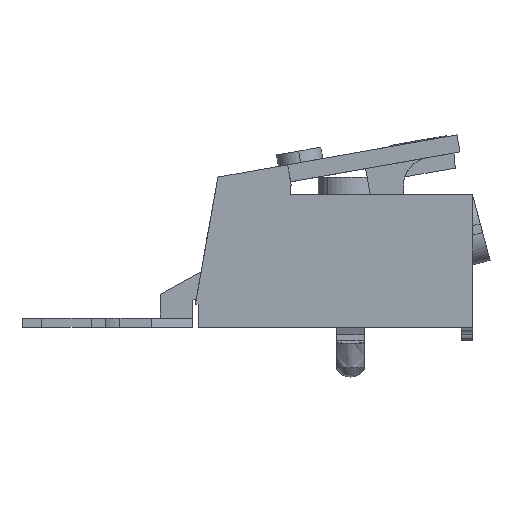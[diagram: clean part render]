
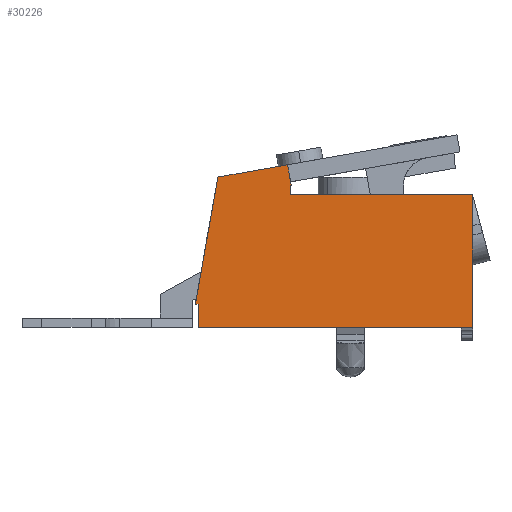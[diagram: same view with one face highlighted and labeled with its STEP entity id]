
A CAD part, left-side view. The second image highlights one B-rep face of the part: STEP entity #30226.
In plain terms, the highlighted planar face has unit normal (-1, 0, 0).
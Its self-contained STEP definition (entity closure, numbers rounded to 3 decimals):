
#14336=CARTESIAN_POINT(' ',(-14.9,0.,11.5));
#14337=VERTEX_POINT(' ',#14336);
#14351=CARTESIAN_POINT(' ',(-14.9,0.,0.));
#14356=DIRECTION(' ',(0.,0.,1.));
#14361=VECTOR(' ',#14356,1.);
#14366=LINE('',#14351,#14361);
#14371=CARTESIAN_POINT(' ',(-14.9,0.,0.));
#14372=VERTEX_POINT(' ',#14371);
#14376=EDGE_CURVE(' ',#14372,#14337,#14366,.T.);
#16231=CARTESIAN_POINT(' ',(-14.9,23.8,0.));
#16236=DIRECTION(' ',(0.,-1.,0.));
#16241=VECTOR(' ',#16236,1.);
#16246=LINE('',#16231,#16241);
#16251=CARTESIAN_POINT(' ',(-14.9,23.8,0.));
#16252=VERTEX_POINT(' ',#16251);
#16256=EDGE_CURVE(' ',#16252,#14372,#16246,.T.);
#16446=CARTESIAN_POINT(' ',(-14.9,23.8,2.));
#16451=DIRECTION(' ',(0.,0.,-1.));
#16456=VECTOR(' ',#16451,1.);
#16461=LINE('',#16446,#16456);
#16466=CARTESIAN_POINT(' ',(-14.9,23.8,2.));
#16467=VERTEX_POINT(' ',#16466);
#16471=EDGE_CURVE(' ',#16467,#16252,#16461,.T.);
#16566=CARTESIAN_POINT(' ',(-14.9,23.8,2.));
#16571=DIRECTION(' ',(0.,1.,0.));
#16576=VECTOR(' ',#16571,1.);
#16581=LINE('',#16566,#16576);
#16586=CARTESIAN_POINT(' ',(-14.9,24.026,2.));
#16587=VERTEX_POINT(' ',#16586);
#16591=EDGE_CURVE(' ',#16467,#16587,#16581,.T.);
#16676=CARTESIAN_POINT(' ',(-14.9,24.026,2.));
#16681=DIRECTION(' ',(0.,-0.174,0.985));
#16686=VECTOR(' ',#16681,1.);
#16691=LINE('',#16676,#16686);
#16696=CARTESIAN_POINT(' ',(-14.9,22.082,13.025));
#16697=VERTEX_POINT(' ',#16696);
#16701=EDGE_CURVE(' ',#16587,#16697,#16691,.T.);
#19046=CARTESIAN_POINT(' ',(-14.9,22.082,13.025));
#19051=DIRECTION(' ',(0.,-0.985,0.174));
#19056=VECTOR(' ',#19051,1.);
#19061=LINE('',#19046,#19056);
#19066=CARTESIAN_POINT(' ',(-14.9,16.04,14.09));
#19067=VERTEX_POINT(' ',#19066);
#19071=EDGE_CURVE(' ',#16697,#19067,#19061,.T.);
#20876=CARTESIAN_POINT(' ',(-14.9,16.04,14.09));
#20881=DIRECTION(' ',(0.,-0.174,-0.985));
#20886=VECTOR(' ',#20881,1.);
#20891=LINE('',#20876,#20886);
#20896=CARTESIAN_POINT(' ',(-14.9,15.724,12.3));
#20897=VERTEX_POINT(' ',#20896);
#20901=EDGE_CURVE(' ',#19067,#20897,#20891,.T.);
#21041=CARTESIAN_POINT(' ',(-14.9,15.8,12.3));
#21042=VERTEX_POINT(' ',#21041);
#21066=CARTESIAN_POINT(' ',(-14.9,15.724,12.3));
#21071=DIRECTION(' ',(0.,1.,0.));
#21076=VECTOR(' ',#21071,1.);
#21081=LINE('',#21066,#21076);
#21086=EDGE_CURVE(' ',#20897,#21042,#21081,.T.);
#21136=CARTESIAN_POINT(' ',(-14.9,15.8,11.5));
#21141=DIRECTION(' ',(0.,0.,1.));
#21146=VECTOR(' ',#21141,1.);
#21151=LINE('',#21136,#21146);
#21156=CARTESIAN_POINT(' ',(-14.9,15.8,11.5));
#21157=VERTEX_POINT(' ',#21156);
#21161=EDGE_CURVE(' ',#21157,#21042,#21151,.T.);
#21256=CARTESIAN_POINT(' ',(-14.9,0.,11.5));
#21261=DIRECTION(' ',(0.,1.,0.));
#21266=VECTOR(' ',#21261,1.);
#21271=LINE('',#21256,#21266);
#21276=EDGE_CURVE(' ',#14337,#21157,#21271,.T.);
#30141=DIRECTION(' ',(-1.,0.,0.));
#30146=CARTESIAN_POINT(' ',(-14.9,24.026,0.));
#30151=DIRECTION(' ',(0.,-1.,0.));
#30156=AXIS2_PLACEMENT_3D(' ',#30146,#30141,#30151);
#30161=PLANE('',#30156);
#30166=ORIENTED_EDGE(' ',*,*,#16256,.T.);
#30171=ORIENTED_EDGE(' ',*,*,#14376,.T.);
#30176=ORIENTED_EDGE(' ',*,*,#21276,.T.);
#30181=ORIENTED_EDGE(' ',*,*,#21161,.T.);
#30186=ORIENTED_EDGE(' ',*,*,#21086,.F.);
#30191=ORIENTED_EDGE(' ',*,*,#20901,.F.);
#30196=ORIENTED_EDGE(' ',*,*,#19071,.F.);
#30201=ORIENTED_EDGE(' ',*,*,#16701,.F.);
#30206=ORIENTED_EDGE(' ',*,*,#16591,.F.);
#30211=ORIENTED_EDGE(' ',*,*,#16471,.T.);
#30216=EDGE_LOOP(' ',(#30166,#30171,#30176,#30181,#30186,#30191,#30196,#30201,#30206,#30211));
#30221=FACE_OUTER_BOUND(' ',#30216,.T.);
#30226=ADVANCED_FACE('',(#30221),#30161,.T.);
